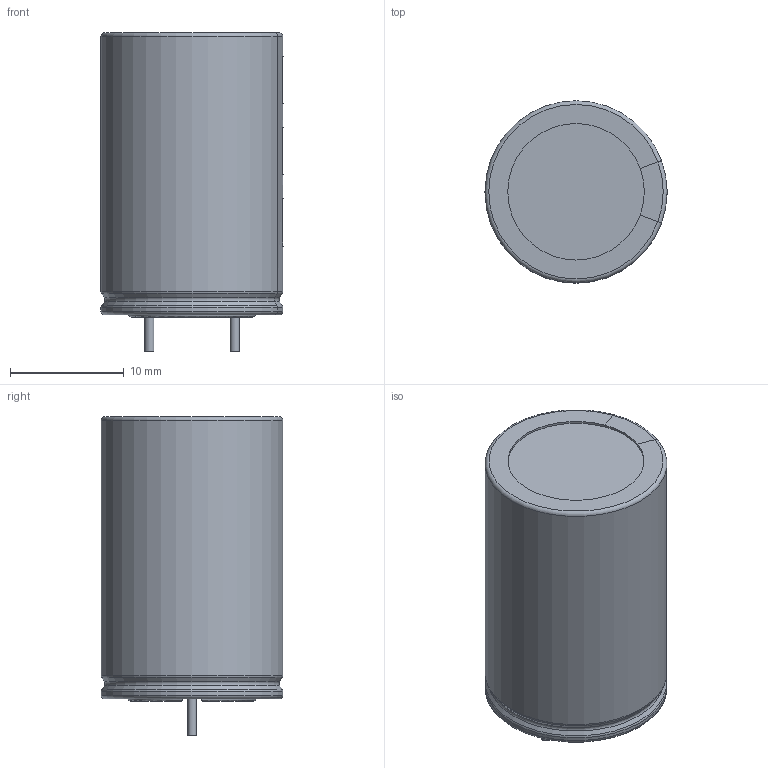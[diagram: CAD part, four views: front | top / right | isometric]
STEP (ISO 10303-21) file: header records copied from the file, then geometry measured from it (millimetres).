
FILE_DESCRIPTION (( 'STEP AP214' ), '1' );
FILE_NAME ('CAPPRD750W80D1600H2500-V-000-300_Illinois_Capacitor_KXM_Series.STEP', '2017-05-31T12:18:22', ( 'pomocnik' ), ( '' ), 'SwSTEP 2.0', 'SolidWorks 2016', '' );
FILE_SCHEMA (( 'AUTOMOTIVE_DESIGN' ));
Length unit declared in the file: millimetre
Products named in the file (1): CAPPRD750W80D1600H2500-V-000-300_Illinois_Capacitor_KXM_Series
Bounding box: 16 x 16 x 28 mm (x, y, z)
Volume: 4926.9 mm3; surface area: 1797.6 mm2
Topology: 1 solids, 1 shells, 58 faces, 144 edges, 95 vertices
Faces by surface type: plane 26, cylinder 16, torus 12, cone 4
Full cylindrical faces by diameter (mm): 0.8 x2, 12 x1
Entity records: 2214 total; most frequent: DIRECTION 322, CARTESIAN_POINT 319, ORIENTED_EDGE 278, EDGE_CURVE 139, AXIS2_PLACEMENT_3D 128, VERTEX_POINT 93, CIRCLE 69, EDGE_LOOP 68
